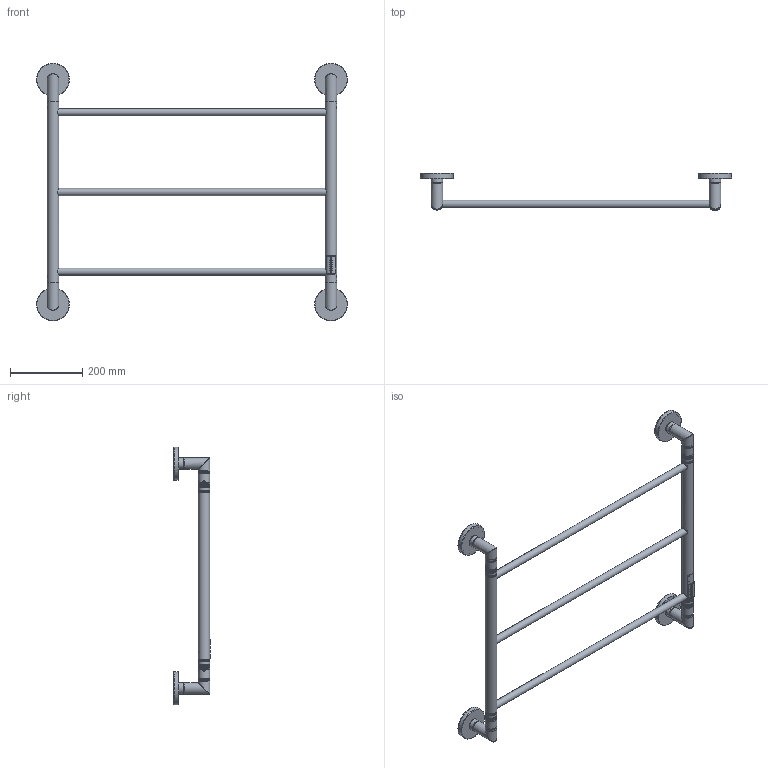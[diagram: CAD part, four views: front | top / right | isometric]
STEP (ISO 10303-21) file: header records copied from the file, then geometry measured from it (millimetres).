
FILE_DESCRIPTION(/* description */ ('Unknown'),/* implementation_level */ '2;1');
FILE_NAME(/* name */ 'BR1SS-L',/* time_stamp */ '2024-06-02T20:51:37+02:00',/* author */ ('Unknown'),/* organization */ ('Unknown'),/* preprocessor_version */ 'ST-DEVELOPER v18.102',/* originating_system */ 'Solid Edge',/* authorisation */ 'Unknown');
FILE_SCHEMA (('AUTOMOTIVE_DESIGN {1 0 10303 214 3 1 1}'));
Length unit declared in the file: millimetre
Products named in the file (15): BW-L-H - Bosewall levý; BW-L-V-L-TR-32-1-500; BW-L-V-R-TR-32-1-500; BW-H-R-TR-20-1-748; BW-K-1 - Koleno horní BW; PD-R-1 - Rozeta; BW-K-TR-R - Trubka kolena u rozety; BW-K-TR-K - Trubka kolena u konektoru; BW-K-2 - Koleno spodní BW; PD-K-1 - Konektor 30x60; Sestava p鷫p璯a鋀; PD-P-1 - Spodní díl pøepínaèe; PD-P-2 - Horní díl pøepínaèe; PD-P-3 - Kryt p鷫p璯a鋀; PD-K-2 - Konektor 30x60 s dírou pro kabel
Assembly tree (23 placements, depth 3):
  BW-L-H - Bosewall levý
    BW-L-V-L-TR-32-1-500
    BW-L-V-R-TR-32-1-500
    BW-H-R-TR-20-1-748  x3
    BW-K-1 - Koleno horní BW  x2
      PD-R-1 - Rozeta
      BW-K-TR-R - Trubka kolena u rozety
      BW-K-TR-K - Trubka kolena u konektoru
    BW-K-2 - Koleno spodní BW  x2
      PD-R-1 - Rozeta
      BW-K-TR-R - Trubka kolena u rozety
      BW-K-TR-K - Trubka kolena u konektoru
    PD-K-1 - Konektor 30x60  x3
    Sestava p鷫p璯a鋀
      PD-P-1 - Spodní díl pøepínaèe
      PD-P-2 - Horní díl pøepínaèe
      PD-P-3 - Kryt p鷫p璯a鋀
    PD-K-2 - Konektor 30x60 s dírou pro kabel
Bounding box: 859 x 101.64 x 712 mm (x, y, z)
Volume: 533109.7 mm3; surface area: 711219.5 mm2
Topology: 24 solids, 24 shells, 996 faces, 2563 edges, 1625 vertices
Faces by surface type: plane 386, cylinder 382, torus 164, cone 24, bspline 22, sphere 18
Full cylindrical faces by diameter (mm): 2.4 x2, 3.4 x2, 4.3 x9, 5 x2, 5.2 x2, 5.5 x2, 12.5 x1, 18 x3, 20 x9, 21 x4, 23 x4, 25.1 x8, 26.1 x8, 28.5 x12, 29 x12, 29.5 x12, 30 x2, 32 x10, 81.8 x4, 87.2 x4, 91 x4
Entity records: 27387 total; most frequent: CARTESIAN_POINT 7464, ORIENTED_EDGE 3926, DIRECTION 3734, EDGE_CURVE 1963, AXIS2_PLACEMENT_3D 1433, VERTEX_POINT 1295, EDGE_LOOP 1026, FACE_BOUND 1026
